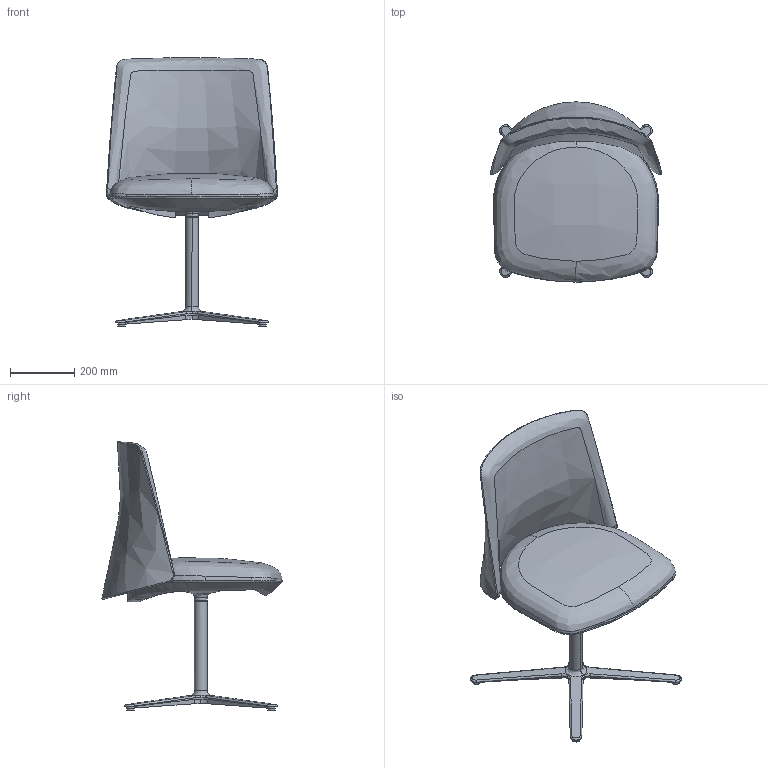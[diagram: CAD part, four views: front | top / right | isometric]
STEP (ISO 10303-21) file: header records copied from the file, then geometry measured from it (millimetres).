
FILE_DESCRIPTION(/* description */ (''),/* implementation_level */ '2;1');
FILE_NAME(/* name */ 'ME9A7A~1',/* time_stamp */ '2016-11-30T15:47:29+01:00',/* author */ (''),/* organization */ (''),/* preprocessor_version */ 'ST-DEVELOPER v15',/* originating_system */ '',/* authorisation */ '');
FILE_SCHEMA (('CONFIG_CONTROL_DESIGN'));
Length unit declared in the file: millimetre
Products named in the file (1): Document
Bounding box: 530.87 x 560.1 x 834.45 mm (x, y, z)
Volume: 27693840.3 mm3; surface area: 1648368.9 mm2
Topology: 4 solids, 13 shells, 172 faces, 433 edges, 276 vertices
Faces by surface type: bspline 128, plane 44
Entity records: 12586 total; most frequent: CARTESIAN_POINT 10071, ORIENTED_EDGE 816, EDGE_CURVE 426, VERTEX_POINT 270, B_SPLINE_CURVE_WITH_KNOTS 201, ADVANCED_FACE 172, FACE_OUTER_BOUND 172, EDGE_LOOP 172
